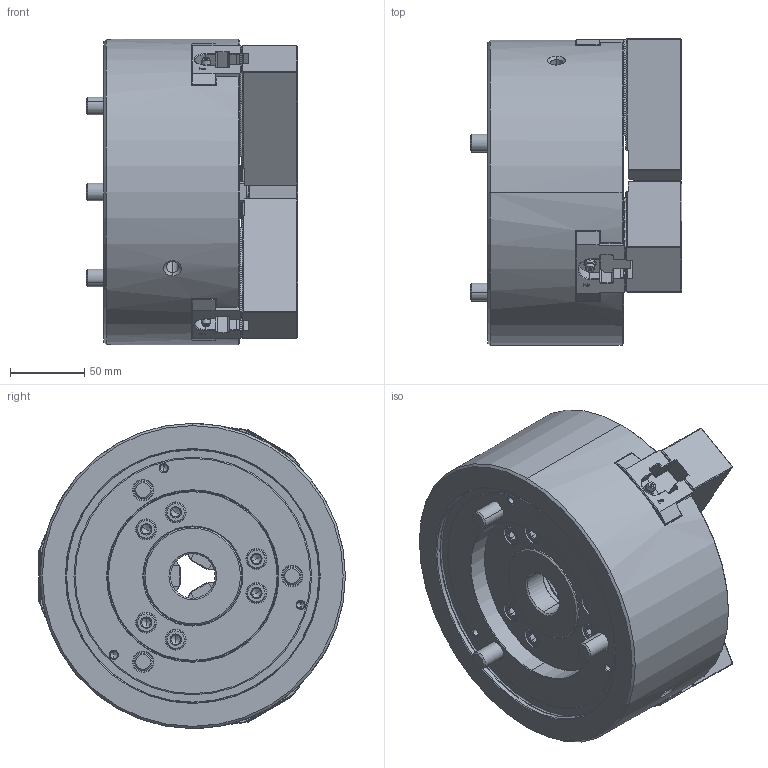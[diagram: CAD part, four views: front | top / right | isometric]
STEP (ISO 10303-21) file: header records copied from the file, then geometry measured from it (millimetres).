
FILE_DESCRIPTION (( 'STEP AP203' ), '1' );
FILE_NAME ('B-208M_HUL.STEP', '2025-09-05T09:38:04', ( '' ), ( '' ), 'SwSTEP 2.0', 'SolidWorks 2022', '' );
FILE_SCHEMA (( 'CONFIG_CONTROL_DESIGN' ));
Length unit declared in the file: millimetre
Products named in the file (9): Copy of DEV-B-208M-ソフトジョー^DEV-B-208M-クミタテ; Copy of DEV-B-208M-カバー^DEV-B-208M-クミタテ; B-208M_HUL; Copy of DEV-B-208M-ドローナット^DEV-B-208M-クミタテ_ねじ切りなし; Copy of DEV-B-208M-Bアナツキボタン M5x10^DEV-B-208M-クミタテ; Part1^DEV-B-208M-クミタテ; Copy of DEV-B-208M-Bアナツキ M12x90^DEV-B-208M-クミタテ; Copy of DEV-B-208M-Bアナツキ M12x30^DEV-B-208M-クミタテ; Copy of DEV-B-208M-Tナット^DEV-B-208M-クミタテ
Assembly tree (21 placements, depth 2):
  B-208M_HUL
    Copy of DEV-B-208M-Bアナツキボタン M5x10^DEV-B-208M-クミタテ  x3
    Copy of DEV-B-208M-Bアナツキ M12x30^DEV-B-208M-クミタテ  x6
    Copy of DEV-B-208M-Bアナツキ M12x90^DEV-B-208M-クミタテ  x3
    Copy of DEV-B-208M-ソフトジョー^DEV-B-208M-クミタテ  x3
    Copy of DEV-B-208M-Tナット^DEV-B-208M-クミタテ  x3
    Copy of DEV-B-208M-ドローナット^DEV-B-208M-クミタテ_ねじ切りなし
    Copy of DEV-B-208M-カバー^DEV-B-208M-クミタテ
    Part1^DEV-B-208M-クミタテ
Bounding box: 142.2 x 206.04 x 205 mm (x, y, z)
Volume: 2918822.7 mm3; surface area: 331351.9 mm2
Topology: 21 solids, 33 shells, 4069 faces, 11360 edges, 7406 vertices
Faces by surface type: plane 2516, cylinder 975, cone 348, bspline 156, torus 66, sphere 8
Entity records: 92339 total; most frequent: CARTESIAN_POINT 24529, ORIENTED_EDGE 14804, DIRECTION 12476, EDGE_CURVE 7402, LINE 5364, VECTOR 5364, VERTEX_POINT 4835, AXIS2_PLACEMENT_3D 3556
